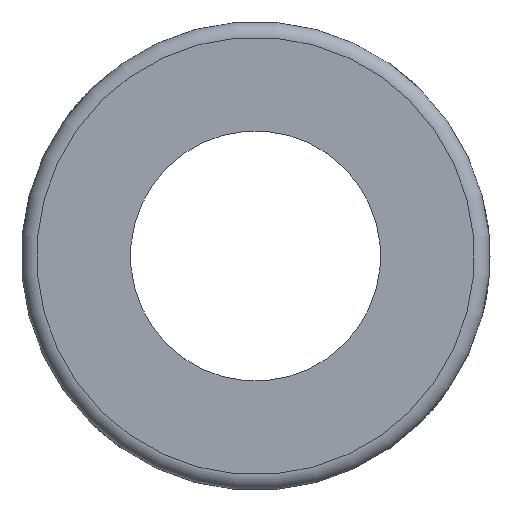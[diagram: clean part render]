
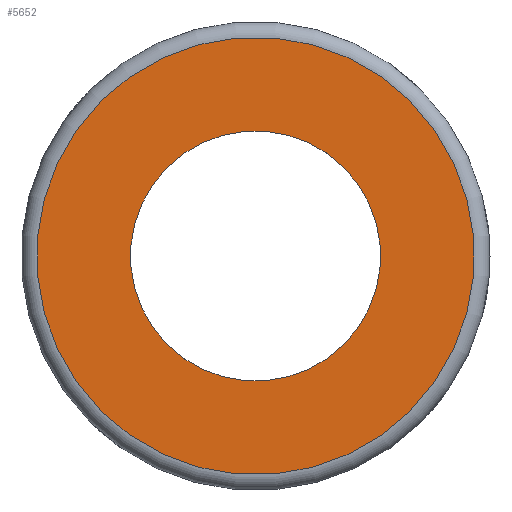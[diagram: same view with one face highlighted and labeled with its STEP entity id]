
A CAD part, left-side view. The second image highlights one B-rep face of the part: STEP entity #5652.
In plain terms, the highlighted planar face has unit normal (-1, 0, 0).
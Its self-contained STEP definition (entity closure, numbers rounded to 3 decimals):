
#121=PLANE('',#6086);
#591=CIRCLE('',#6083,4.);
#593=CIRCLE('',#6087,7.);
#959=ORIENTED_EDGE('',*,*,#2664,.T.);
#960=ORIENTED_EDGE('',*,*,#2654,.T.);
#2654=EDGE_CURVE('',#3507,#3507,#591,.T.);
#2664=EDGE_CURVE('',#3517,#3517,#593,.F.);
#3507=VERTEX_POINT('',#8732);
#3517=VERTEX_POINT('',#8770);
#4813=EDGE_LOOP('',(#959));
#4814=EDGE_LOOP('',(#960));
#5226=FACE_BOUND('',#4813,.T.);
#5227=FACE_BOUND('',#4814,.T.);
#5652=ADVANCED_FACE('',(#5226,#5227),#121,.F.);
#6083=AXIS2_PLACEMENT_3D('',#8731,#6671,#6672);
#6086=AXIS2_PLACEMENT_3D('',#8768,#6681,#6682);
#6087=AXIS2_PLACEMENT_3D('',#8769,#6683,#6684);
#6671=DIRECTION('',(1.,0.,0.));
#6672=DIRECTION('',(0.,0.707,-0.707));
#6681=DIRECTION('',(1.,0.,0.));
#6682=DIRECTION('',(0.,0.707,-0.707));
#6683=DIRECTION('',(1.,0.,0.));
#6684=DIRECTION('',(0.,0.707,-0.707));
#8731=CARTESIAN_POINT('',(-12.,0.,0.));
#8732=CARTESIAN_POINT('',(-12.,2.828,-2.828));
#8768=CARTESIAN_POINT('',(-12.,0.,0.));
#8769=CARTESIAN_POINT('',(-12.,0.,0.));
#8770=CARTESIAN_POINT('',(-12.,4.95,-4.95));
